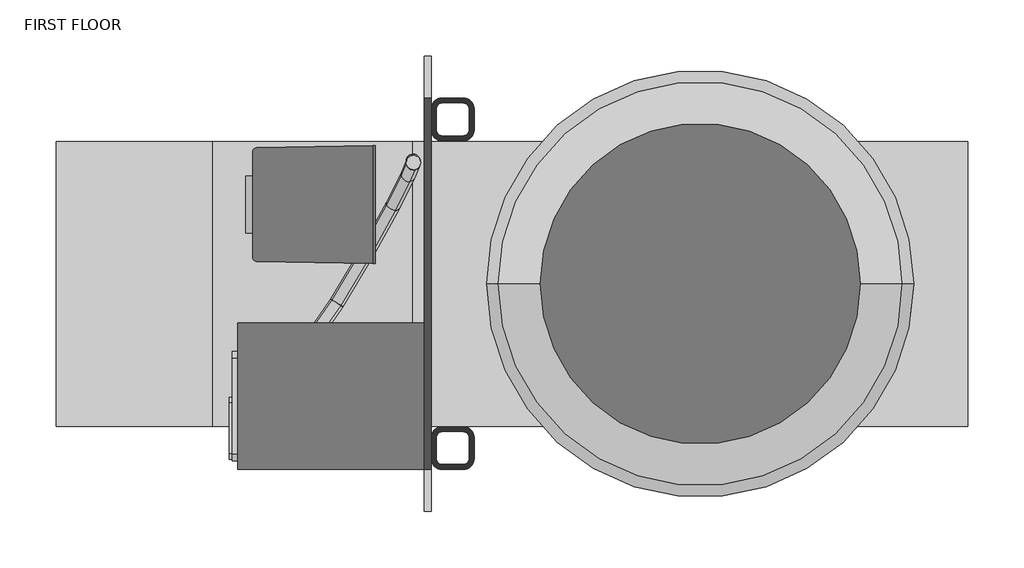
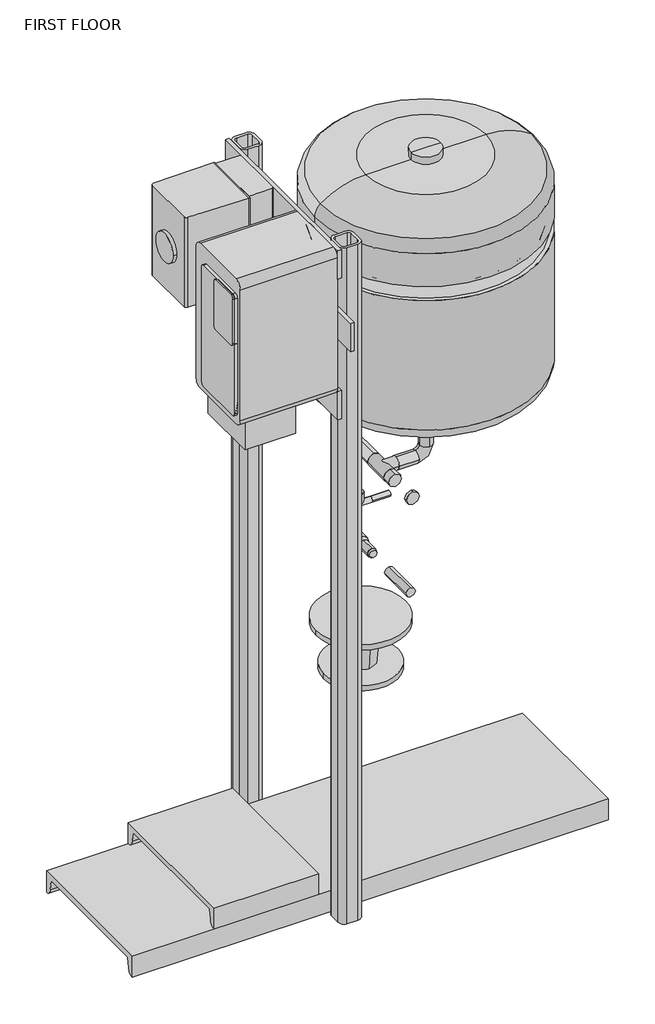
# One storey, incomplete: 13 pipe segments, 9 pipe fittings, 5 beams, 3 proxies, 3 valves, 2 columns.
"""IFC4 building model written with IfcOpenShell, lengths in millimetres."""

from ifc_helpers import new_model, si_unit, point, frame, frame_2d, origin, place, context, project, spatial, circle_curve, ellipse_curve, trimmed, segment, composite_curve, outline, extrude, transform, mapped, element, save
from ifc_brep_helpers import plane_surface, cylinder_surface, advanced_brep
from components import beam_3386be0e, beam_c16335ed, beam_b0f6b6d0, c_channel_c10x20_f8b15b4c, c_channel_c10x20_7602a768, disconnect_disconnect_c236907a, tank_tank_de8b4314, vfd_vfd_badebb43, hss_hollow_structural_section_column_hss1_1_2x1_1_2x3_16_b4625a5d, hss_hollow_structural_section_column_hss1_1_2x1_1_2x3_16_67ca75d1, elbow_generic_standard_738589b0, tee_generic_standard_5078887e, tee_generic_standard_7a603254, transition_generic1_standard_2_0acd84b5, transition_generic1_standard_2_44e35838, transition_generic1_standard_2_162a224e, transition_welded_generic_standard_0458f375, mechanical_equipment_1_mechanical_equipment_1_24614a7e, pipe_accessories_1_pipe_accessories_1_fcb048ba

model = new_model("IFC4")

# Units and contexts
model_context = context("Model", 3, world=origin())
ifc_project = project(units=[si_unit("LENGTHUNIT", "METRE", prefix="MILLI")], contexts=[model_context])

# Site, building, storey
site = spatial("IfcSite", under=ifc_project)
building = spatial("IfcBuilding", under=site)
storey = spatial("IfcBuildingStorey", under=building, Name="FIRST FLOOR", Elevation=0.0)

# Beams
placement = place(None, origin())
beam_shape = beam_3386be0e(model_context)
element("IfcBeam", 1, ObjectType="Structural Stiffeners 2 : Structural Stiffeners 1", at=placement, inside=storey, context=model_context, shape_type="MappedRepresentation", body=[
    mapped(beam_shape, transform((0.0, 0.0, 0.0), x_axis=(1.0, 0.0, 0.0), y_axis=(0.0, 1.0, 0.0), z_axis=(0.0, 0.0, 1.0))),
])
beam_2_shape = beam_c16335ed(model_context)
element("IfcBeam", 2, ObjectType="Structural Stiffeners 3 : Structural Stiffeners 3", at=placement, inside=storey, context=model_context, shape_type="MappedRepresentation", body=[
    mapped(beam_2_shape, transform((0.0, 0.0, 0.0), x_axis=(1.0, 0.0, 0.0), y_axis=(0.0, 1.0, 0.0), z_axis=(0.0, 0.0, 1.0))),
])
beam_3_shape = beam_b0f6b6d0(model_context)
element("IfcBeam", 3, ObjectType="Structural Stiffeners 4 : Structural Stiffeners 4", at=placement, inside=storey, context=model_context, shape_type="MappedRepresentation", body=[
    mapped(beam_3_shape, transform((0.0, 0.0, 0.0), x_axis=(1.0, 0.0, 0.0), y_axis=(0.0, 1.0, 0.0), z_axis=(0.0, 0.0, 1.0))),
])
c_channel_c10x20_shape = c_channel_c10x20_f8b15b4c(model_context)
element("IfcBeam", 4, ObjectType="C-Channel : C10X20", at=placement, inside=storey, context=model_context, shape_type="MappedRepresentation", body=[
    mapped(c_channel_c10x20_shape, transform((2213.0310789, 2040.2688308, 22.8203125), x_axis=(1.0, 0.0, 0.0), y_axis=(0.0, 0.0, 1.0), z_axis=(0.0, -1.0, 0.0))),
])
c_channel_c10x20_2_shape = c_channel_c10x20_7602a768(model_context)
element("IfcBeam", 5, ObjectType="C-Channel : C10X20", at=placement, inside=storey, context=model_context, shape_type="MappedRepresentation", body=[
    mapped(c_channel_c10x20_2_shape, transform((2140.8760292, 2040.2688308, 60.9203125), x_axis=(1.0, 0.0, 0.0), y_axis=(0.0, 0.0, 1.0), z_axis=(0.0, -1.0, 0.0))),
])

# Proxies
disconnect_disconnect_shape = disconnect_disconnect_c236907a(model_context)
element("IfcBuildingElementProxy", 6, Name="Disconnect : Disconnect", ObjectType="Disconnect : Disconnect", at=placement, inside=storey, context=model_context, shape_type="MappedRepresentation", body=[
    mapped(disconnect_disconnect_shape, transform((2234.0305289, 2110.8435936, 1057.148), x_axis=(0.0, 1.0, 0.0), y_axis=(-1.0, 0.0, 0.0), z_axis=(0.0, 0.0, 1.0))),
])
tank_tank_shape = tank_tank_de8b4314(model_context)
element("IfcBuildingElementProxy", 7, Name="Tank : Tank", ObjectType="Tank : Tank", at=placement, inside=storey, context=model_context, shape_type="MappedRepresentation", body=[
    mapped(tank_tank_shape, transform((2480.0930289, 2040.2688308, 749.3), x_axis=(1.0, 0.0, 0.0), y_axis=(0.0, 1.0, 0.0), z_axis=(0.0, 0.0, 1.0))),
])
vfd_vfd_shape = vfd_vfd_badebb43(model_context)
element("IfcBuildingElementProxy", 8, Name="VFD : VFD", ObjectType="VFD : VFD", at=placement, inside=storey, context=model_context, shape_type="MappedRepresentation", body=[
    mapped(vfd_vfd_shape, transform((2067.8146214, 1935.4938308, 906.7002223), x_axis=(0.0, -1.0, 0.0), y_axis=(1.0, 0.0, 0.0), z_axis=(0.0, 0.0, 1.0))),
])

# Columns
hss_hollow_structural_section_column_hss1_1_2x1_1_2x3_16_shape = hss_hollow_structural_section_column_hss1_1_2x1_1_2x3_16_b4625a5d(model_context)
element("IfcColumn", 9, ObjectType="HSS-Hollow Structural Section-Column : HSS1-1/2X1-1/2X3/16 - Obsolete", at=placement, inside=storey, context=model_context, shape_type="MappedRepresentation", body=[
    mapped(hss_hollow_structural_section_column_hss1_1_2x1_1_2x3_16_shape, transform((2259.4305289, 1893.655878, 0.0), x_axis=(1.0, 0.0, 0.0), y_axis=(0.0, 1.0, 0.0), z_axis=(0.0, 0.0, 1.0))),
])
hss_hollow_structural_section_column_hss1_1_2x1_1_2x3_16_2_shape = hss_hollow_structural_section_column_hss1_1_2x1_1_2x3_16_67ca75d1(model_context)
element("IfcColumn", 10, ObjectType="HSS-Hollow Structural Section-Column : HSS1-1/2X1-1/2X3/16 - Obsolete", at=placement, inside=storey, context=model_context, shape_type="MappedRepresentation", body=[
    mapped(hss_hollow_structural_section_column_hss1_1_2x1_1_2x3_16_2_shape, transform((2259.4305289, 2186.8817836, 0.0), x_axis=(1.0, 0.0, 0.0), y_axis=(0.0, 1.0, 0.0), z_axis=(0.0, 0.0, 1.0))),
])

# Pipe fittings
elbow_generic_standard_shape = elbow_generic_standard_738589b0(model_context)
element("IfcPipeFitting", 11, ObjectType="Elbow - Generic : Standard", at=placement, inside=storey, context=model_context, shape_type="MappedRepresentation", body=[
    mapped(elbow_generic_standard_shape, transform((2480.0930289, 2040.2688308, 668.3375), x_axis=(0.0, 0.0, -1.0), y_axis=(-1.0, 0.0, 0.0), z_axis=(0.0, 1.0, 0.0))),
])
element("IfcPipeFitting", 12, ObjectType="Elbow - Generic : Standard", at=placement, inside=storey, context=model_context, shape_type="MappedRepresentation", body=[
    mapped(elbow_generic_standard_shape, transform((2405.2653765, 2159.3313308, 668.3375), x_axis=(0.0, 1.0, 0.0), y_axis=(0.0, 0.0, -1.0), z_axis=(-1.0, 0.0, 0.0))),
])
element("IfcPipeFitting", 13, ObjectType="Elbow - Generic : Standard", at=placement, inside=storey, context=model_context, shape_type="MappedRepresentation", body=[
    mapped(elbow_generic_standard_shape, transform((2405.2653765, 2159.3313308, 496.57), x_axis=(0.0, 0.0, -1.0), y_axis=(0.0, -1.0, 0.0), z_axis=(-1.0, 0.0, 0.0))),
])
tee_generic_standard_shape = tee_generic_standard_5078887e(model_context)
element("IfcPipeFitting", 14, ObjectType="Tee - Generic : Standard", at=placement, inside=storey, context=model_context, shape_type="MappedRepresentation", body=[
    mapped(tee_generic_standard_shape, transform((2405.2653765, 2040.2688308, 668.3375), x_axis=(0.0, -1.0, 0.0), y_axis=(-1.0, 0.0, 0.0), z_axis=(0.0, 0.0, -1.0))),
])
tee_generic_standard_2_shape = tee_generic_standard_7a603254(model_context)
element("IfcPipeFitting", 15, ObjectType="Tee - Generic : Standard", at=placement, inside=storey, context=model_context, shape_type="MappedRepresentation", body=[
    mapped(tee_generic_standard_2_shape, transform((2333.0341265, 1977.5625808, 668.3375), x_axis=(-1.0, 0.0, 0.0), y_axis=(0.0, 0.0, -1.0), z_axis=(0.0, -1.0, 0.0))),
])
transition_generic1_standard_2_shape = transition_generic1_standard_2_0acd84b5(model_context)
element("IfcPipeFitting", 16, ObjectType="Transition - Generic1 : Standard 2", at=placement, inside=storey, context=model_context, shape_type="MappedRepresentation", body=[
    mapped(transition_generic1_standard_2_shape, transform((2480.0930289, 2040.2688308, 760.197863), x_axis=(0.0, 0.0, 1.0), y_axis=(-1.0, 0.0, 0.0), z_axis=(0.0, -1.0, 0.0))),
])
transition_generic1_standard_2_2_shape = transition_generic1_standard_2_44e35838(model_context)
element("IfcPipeFitting", 17, ObjectType="Transition - Generic1 : Standard 2", at=placement, inside=storey, context=model_context, shape_type="MappedRepresentation", body=[
    mapped(transition_generic1_standard_2_2_shape, transform((2405.2653765, 2099.8000808, 496.57), x_axis=(0.0, -1.0, 0.0), y_axis=(1.0, 0.0, 0.0), z_axis=(0.0, 0.0, 1.0))),
])
transition_generic1_standard_2_3_shape = transition_generic1_standard_2_162a224e(model_context)
element("IfcPipeFitting", 18, ObjectType="Transition - Generic1 : Standard 2", at=placement, inside=storey, context=model_context, shape_type="MappedRepresentation", body=[
    mapped(transition_generic1_standard_2_3_shape, transform((2405.2653765, 2069.6249791, 496.57), x_axis=(0.0, -1.0, 0.0), y_axis=(1.0, 0.0, 0.0), z_axis=(0.0, 0.0, 1.0))),
])
transition_welded_generic_standard_shape = transition_welded_generic_standard_0458f375(model_context)
element("IfcPipeFitting", 19, ObjectType="Transition - Welded - Generic : Standard", at=placement, inside=storey, context=model_context, shape_type="MappedRepresentation", body=[
    mapped(transition_welded_generic_standard_shape, transform((2368.9680289, 2040.2688308, 330.0266676), x_axis=(0.0, 0.0, 1.0), y_axis=(0.0, -1.0, 0.0), z_axis=(1.0, 0.0, 0.0))),
])

# Pipe segments
element("IfcPipeSegment", 20, ObjectType="Flex - Round", at=placement, inside=storey, context=model_context, shape_type="AdvancedBrep", body=[
    advanced_brep(
    [(2218.2373794, 2147.4712083, 1070.589219), (2225.564909, 2142.2820118, 1070.4325321), (2230.7563366, 2149.6079608, 1070.589219), (2223.4288071, 2154.7971572, 1070.745906), (2218.0607979, 2148.5057765, 1028.0682254), (2223.2513909, 2155.8366155, 1028.0239325), (2230.5796402, 2150.6432023, 1028.0405559), (2225.3890472, 2143.3123633, 1028.0848488)],
    [
        (0, 1, circle_curve(frame((2224.496858, 2148.5395845, 1070.589219), z_axis=(0.004151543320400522, -0.024323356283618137, 0.9996955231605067), x_axis=(-0.9857446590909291, -0.16824823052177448, 0.0)), 6.35)),
        (1, 2, circle_curve(frame((2224.496858, 2148.5395845, 1070.589219), z_axis=(0.004151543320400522, -0.024323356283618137, 0.9996955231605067), x_axis=(-0.9857446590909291, -0.16824823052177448, 0.0)), 6.35)),
        (2, 3, circle_curve(frame((2224.496858, 2148.5395845, 1070.589219), z_axis=(0.004151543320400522, -0.024323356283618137, 0.9996955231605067), x_axis=(-0.9857446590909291, -0.16824823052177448, 0.0)), 6.35)),
        (3, 0, circle_curve(frame((2224.496858, 2148.5395845, 1070.589219), z_axis=(0.004151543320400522, -0.024323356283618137, 0.9996955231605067), x_axis=(-0.9857446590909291, -0.16824823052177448, 0.0)), 6.35)),
        (4, 5, ellipse_curve(frame((2224.3202191, 2149.5744894, 1028.0543907), z_axis=(-0.0013407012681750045, -0.005092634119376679, -0.9999861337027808), x_axis=(0.09514721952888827, -0.995450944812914, 0.004941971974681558)), 6.3527739, 6.35)),
        (5, 6, ellipse_curve(frame((2224.3202191, 2149.5744894, 1028.0543907), z_axis=(-0.0013407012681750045, -0.005092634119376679, -0.9999861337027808), x_axis=(0.09514721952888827, -0.995450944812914, 0.004941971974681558)), 6.3527739, 6.35)),
        (6, 7, ellipse_curve(frame((2224.3202191, 2149.5744894, 1028.0543907), z_axis=(-0.0013407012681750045, -0.005092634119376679, -0.9999861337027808), x_axis=(0.09514721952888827, -0.995450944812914, 0.004941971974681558)), 6.3527739, 6.35)),
        (7, 4, ellipse_curve(frame((2224.3202191, 2149.5744894, 1028.0543907), z_axis=(-0.0013407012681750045, -0.005092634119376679, -0.9999861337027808), x_axis=(0.09514721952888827, -0.995450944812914, 0.004941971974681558)), 6.3527739, 6.35)),
        (0, 4),
        (7, 1),
        (6, 2),
        (5, 3),
    ],
    [
        plane_surface(frame((2224.496858, 2154.8877058, 1070.7436737), z_axis=(0.004151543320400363, -0.02432335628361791, 0.9996955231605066), x_axis=(0.9999913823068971, 0.00010098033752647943, -0.004150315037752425))),
        plane_surface(frame((2230.6414047, 2150.1786238, 1028.0428391), z_axis=(-0.0013407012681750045, -0.005092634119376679, -0.9999861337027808), x_axis=(0.09514721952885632, -0.995450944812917, 0.0049419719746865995))),
        cylinder_surface(frame((2224.496858, 2148.5395845, 1070.589219), z_axis=(0.004151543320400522, -0.024323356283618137, 0.9996955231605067), x_axis=(-0.9857446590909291, -0.16824823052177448, 0.0)), 6.35),
    ],
    [
        (0, [[1, 2, 3, 4]]),
        (1, [[5, 6, 7, 8]]),
        (2, [[-1, 9, -8, 10]]),
        (2, [[-2, -10, -7, 11]]),
        (2, [[-3, -11, -6, 12]]),
        (2, [[-4, -12, -5, -9]]),
    ],
),
    advanced_brep(
    [(2218.0607979, 2148.5057765, 1028.0682254), (2225.3890472, 2143.3123633, 1028.0848488), (2230.5796402, 2150.6432023, 1028.0405559), (2223.2513909, 2155.8366155, 1028.0239325), (2218.1232551, 2147.0410751, 985.6435743), (2225.4509541, 2141.8605664, 986.0339729), (2230.6435304, 2149.1448938, 984.6424862), (2223.3158314, 2154.3254025, 984.2520876)],
    [
        (0, 1, ellipse_curve(frame((2224.3202191, 2149.5744894, 1028.0543907), z_axis=(0.0013407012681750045, 0.005092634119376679, 0.9999861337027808), x_axis=(-0.09514721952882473, 0.9954509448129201, -0.004941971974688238)), 6.3527739, 6.35)),
        (1, 2, ellipse_curve(frame((2224.3202191, 2149.5744894, 1028.0543907), z_axis=(0.0013407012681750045, 0.005092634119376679, 0.9999861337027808), x_axis=(-0.09514721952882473, 0.9954509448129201, -0.004941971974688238)), 6.3527739, 6.35)),
        (2, 3, ellipse_curve(frame((2224.3202191, 2149.5744894, 1028.0543907), z_axis=(0.0013407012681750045, 0.005092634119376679, 0.9999861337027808), x_axis=(-0.09514721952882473, 0.9954509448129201, -0.004941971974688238)), 6.3527739, 6.35)),
        (3, 0, ellipse_curve(frame((2224.3202191, 2149.5744894, 1028.0543907), z_axis=(0.0013407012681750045, 0.005092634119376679, 0.9999861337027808), x_axis=(-0.09514721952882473, 0.9954509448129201, -0.004941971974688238)), 6.3527739, 6.35)),
        (0, 4),
        (4, 5, ellipse_curve(frame((2224.3833927, 2148.0929845, 985.1430302), z_axis=(0.05367454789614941, 0.15031433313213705, 0.9871801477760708), x_axis=(-0.4254088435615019, -0.8909612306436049, 0.15879358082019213)), 6.4031541, 6.35)),
        (5, 1),
        (5, 6, ellipse_curve(frame((2224.3833927, 2148.0929845, 985.1430302), z_axis=(0.05367454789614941, 0.15031433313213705, 0.9871801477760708), x_axis=(-0.4254088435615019, -0.8909612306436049, 0.15879358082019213)), 6.4031541, 6.35)),
        (6, 2),
        (6, 7, ellipse_curve(frame((2224.3833927, 2148.0929845, 985.1430302), z_axis=(0.05367454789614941, 0.15031433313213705, 0.9871801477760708), x_axis=(-0.4254088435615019, -0.8909612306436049, 0.15879358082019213)), 6.4031541, 6.35)),
        (7, 3),
        (7, 4, ellipse_curve(frame((2224.3833927, 2148.0929845, 985.1430302), z_axis=(0.05367454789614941, 0.15031433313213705, 0.9871801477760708), x_axis=(-0.4254088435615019, -0.8909612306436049, 0.15879358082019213)), 6.4031541, 6.35)),
    ],
    [
        plane_surface(frame((2230.6414047, 2150.1786238, 1028.0428391), z_axis=(0.0013407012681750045, 0.005092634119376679, 0.9999861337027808), x_axis=(0.09514721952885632, -0.995450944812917, 0.0049419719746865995))),
        cylinder_surface(frame((2224.3202191, 2149.5744894, 1028.0543907), z_axis=(-0.0014713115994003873, 0.034504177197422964, 0.9994034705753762), x_axis=(-0.9857388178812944, -0.16822604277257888, 0.0043567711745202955)), 6.35),
        plane_surface(frame((2230.1200347, 2145.372147, 985.245412), z_axis=(-0.05367454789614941, -0.15031433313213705, -0.9871801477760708), x_axis=(-0.425408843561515, -0.8909612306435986, 0.15879358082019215))),
    ],
    [
        (0, [[1, 2, 3, 4]]),
        (1, [[-1, 5, 6, 7]]),
        (1, [[-2, -7, 8, 9]]),
        (1, [[-3, -9, 10, 11]]),
        (1, [[-4, -11, 12, -5]]),
        (2, [[-12, -10, -8, -6]]),
    ],
),
    advanced_brep(
    [(2218.1232551, 2147.0410751, 985.6435743), (2225.4509541, 2141.8605664, 986.0339729), (2230.6435304, 2149.1448938, 984.6424862), (2223.3158314, 2154.3254025, 984.2520876), (2213.8221611, 2136.5351893, 947.4436744), (2218.6643001, 2142.9635357, 942.9398004), (2226.0383693, 2137.8962913, 943.7420334), (2221.1962303, 2131.4679448, 948.2459074)],
    [
        (0, 1, ellipse_curve(frame((2224.3833927, 2148.0929845, 985.1430302), z_axis=(0.05367454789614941, 0.15031433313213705, 0.9871801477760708), x_axis=(0.42540884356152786, 0.8909612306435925, -0.15879358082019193)), 6.4031541, 6.35)),
        (1, 2, ellipse_curve(frame((2224.3833927, 2148.0929845, 985.1430302), z_axis=(0.05367454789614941, 0.15031433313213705, 0.9871801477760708), x_axis=(0.42540884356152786, 0.8909612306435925, -0.15879358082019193)), 6.4031541, 6.35)),
        (2, 3, ellipse_curve(frame((2224.3833927, 2148.0929845, 985.1430302), z_axis=(0.05367454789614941, 0.15031433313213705, 0.9871801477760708), x_axis=(0.42540884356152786, 0.8909612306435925, -0.15879358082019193)), 6.4031541, 6.35)),
        (3, 0, ellipse_curve(frame((2224.3833927, 2148.0929845, 985.1430302), z_axis=(0.05367454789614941, 0.15031433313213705, 0.9871801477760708), x_axis=(0.42540884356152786, 0.8909612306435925, -0.15879358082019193)), 6.4031541, 6.35)),
        (4, 5, ellipse_curve(frame((2219.9302652, 2137.2157403, 945.5928539), z_axis=(-0.21322910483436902, -0.44777489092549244, -0.8683495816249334), x_axis=(-0.4351267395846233, -0.7522510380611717, 0.4947555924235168)), 6.5233147, 6.35)),
        (5, 6, ellipse_curve(frame((2219.9302652, 2137.2157403, 945.5928539), z_axis=(-0.21322910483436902, -0.44777489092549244, -0.8683495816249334), x_axis=(-0.4351267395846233, -0.7522510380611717, 0.4947555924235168)), 6.5233147, 6.35)),
        (6, 7, ellipse_curve(frame((2219.9302652, 2137.2157403, 945.5928539), z_axis=(-0.21322910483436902, -0.44777489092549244, -0.8683495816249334), x_axis=(-0.4351267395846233, -0.7522510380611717, 0.4947555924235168)), 6.5233147, 6.35)),
        (7, 4, ellipse_curve(frame((2219.9302652, 2137.2157403, 945.5928539), z_axis=(-0.21322910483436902, -0.44777489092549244, -0.8683495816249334), x_axis=(-0.4351267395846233, -0.7522510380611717, 0.4947555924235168)), 6.5233147, 6.35)),
        (0, 4),
        (7, 1),
        (6, 2),
        (5, 3),
    ],
    [
        plane_surface(frame((2230.1200347, 2145.372147, 985.245412), z_axis=(0.05367454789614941, 0.15031433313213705, 0.9871801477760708), x_axis=(-0.425408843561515, -0.8909612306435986, 0.15879358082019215))),
        plane_surface(frame((2225.4849659, 2134.1465413, 945.8115289), z_axis=(-0.21322910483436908, -0.44777489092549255, -0.8683495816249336), x_axis=(-0.43512673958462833, -0.7522510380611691, 0.49475559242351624))),
        cylinder_surface(frame((2224.3833927, 2148.0929845, 985.1430302), z_axis=(0.10792927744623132, 0.2636289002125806, 0.9585671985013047), x_axis=(-0.9778062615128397, -0.14601110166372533, 0.1502520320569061)), 6.35),
    ],
    [
        (0, [[1, 2, 3, 4]]),
        (1, [[5, 6, 7, 8]]),
        (2, [[-1, 9, -8, 10]]),
        (2, [[-2, -10, -7, 11]]),
        (2, [[-3, -11, -6, 12]]),
        (2, [[-4, -12, -5, -9]]),
    ],
),
    advanced_brep(
    [(2213.8221611, 2136.5351893, 947.4436744), (2221.1962303, 2131.4679448, 948.2459074), (2226.0383693, 2137.8962913, 943.7420334), (2218.6643001, 2142.9635357, 942.9398004), (2200.7417171, 2110.6412632, 916.2756906), (2204.3905523, 2114.7073564, 908.9284212), (2211.8756963, 2109.8599946, 909.9953223), (2208.2268612, 2105.7939014, 917.3425917)],
    [
        (0, 1, ellipse_curve(frame((2219.9302652, 2137.2157403, 945.5928539), z_axis=(0.21322910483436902, 0.44777489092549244, 0.8683495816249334), x_axis=(0.4351267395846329, 0.7522510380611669, -0.4947555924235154)), 6.5233147, 6.35)),
        (1, 2, ellipse_curve(frame((2219.9302652, 2137.2157403, 945.5928539), z_axis=(0.21322910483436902, 0.44777489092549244, 0.8683495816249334), x_axis=(0.4351267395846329, 0.7522510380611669, -0.4947555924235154)), 6.5233147, 6.35)),
        (2, 3, ellipse_curve(frame((2219.9302652, 2137.2157403, 945.5928539), z_axis=(0.21322910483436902, 0.44777489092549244, 0.8683495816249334), x_axis=(0.4351267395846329, 0.7522510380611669, -0.4947555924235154)), 6.5233147, 6.35)),
        (3, 0, ellipse_curve(frame((2219.9302652, 2137.2157403, 945.5928539), z_axis=(0.21322910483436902, 0.44777489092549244, 0.8683495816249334), x_axis=(0.4351267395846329, 0.7522510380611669, -0.4947555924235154)), 6.5233147, 6.35)),
        (4, 5, ellipse_curve(frame((2206.3087067, 2110.2506289, 913.1355065), z_axis=(-0.3803549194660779, -0.7161376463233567, -0.5852153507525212), x_axis=(-0.3368267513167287, -0.48205080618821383, 0.8088107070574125)), 6.4748381, 6.35)),
        (5, 6, ellipse_curve(frame((2206.3087067, 2110.2506289, 913.1355065), z_axis=(-0.3803549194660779, -0.7161376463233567, -0.5852153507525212), x_axis=(-0.3368267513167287, -0.48205080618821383, 0.8088107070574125)), 6.4748381, 6.35)),
        (6, 7, ellipse_curve(frame((2206.3087067, 2110.2506289, 913.1355065), z_axis=(-0.3803549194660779, -0.7161376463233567, -0.5852153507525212), x_axis=(-0.3368267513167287, -0.48205080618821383, 0.8088107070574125)), 6.4748381, 6.35)),
        (7, 4, ellipse_curve(frame((2206.3087067, 2110.2506289, 913.1355065), z_axis=(-0.3803549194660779, -0.7161376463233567, -0.5852153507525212), x_axis=(-0.3368267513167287, -0.48205080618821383, 0.8088107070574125)), 6.4748381, 6.35)),
        (0, 4),
        (7, 1),
        (6, 2),
        (5, 3),
    ],
    [
        plane_surface(frame((2225.4849659, 2134.1465413, 945.8115289), z_axis=(0.21322910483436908, 0.44777489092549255, 0.8683495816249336), x_axis=(-0.43512673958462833, -0.7522510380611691, 0.49475559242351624))),
        plane_surface(frame((2211.7781099, 2107.045458, 913.5029424), z_axis=(-0.380354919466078, -0.7161376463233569, -0.5852153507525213), x_axis=(-0.3368267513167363, -0.4820508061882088, 0.8088107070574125))),
        cylinder_surface(frame((2219.9302652, 2137.2157403, 945.5928539), z_axis=(0.3071985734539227, 0.608127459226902, 0.7319904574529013), x_axis=(-0.9166497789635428, -0.017584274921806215, 0.3993043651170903)), 6.35),
    ],
    [
        (0, [[1, 2, 3, 4]]),
        (1, [[5, 6, 7, 8]]),
        (2, [[-1, 9, -8, 10]]),
        (2, [[-2, -10, -7, 11]]),
        (2, [[-3, -11, -6, 12]]),
        (2, [[-4, -12, -5, -9]]),
    ],
),
    advanced_brep(
    [(2200.7417171, 2110.6412632, 916.2756906), (2208.2268612, 2105.7939014, 917.3425917), (2211.8756963, 2109.8599946, 909.9953223), (2204.3905523, 2114.7073564, 908.9284212), (2178.280459, 2069.8725306, 894.9901328), (2180.5968089, 2071.5200711, 886.380125), (2188.1458418, 2066.7886721, 887.5075709), (2185.8294919, 2065.1411315, 896.1175786)],
    [
        (0, 1, ellipse_curve(frame((2206.3087067, 2110.2506289, 913.1355065), z_axis=(0.3803549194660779, 0.7161376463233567, 0.5852153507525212), x_axis=(0.3368267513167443, 0.48205080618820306, -0.8088107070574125)), 6.4748381, 6.35)),
        (1, 2, ellipse_curve(frame((2206.3087067, 2110.2506289, 913.1355065), z_axis=(0.3803549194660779, 0.7161376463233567, 0.5852153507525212), x_axis=(0.3368267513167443, 0.48205080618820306, -0.8088107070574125)), 6.4748381, 6.35)),
        (2, 3, ellipse_curve(frame((2206.3087067, 2110.2506289, 913.1355065), z_axis=(0.3803549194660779, 0.7161376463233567, 0.5852153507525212), x_axis=(0.3368267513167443, 0.48205080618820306, -0.8088107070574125)), 6.4748381, 6.35)),
        (3, 0, ellipse_curve(frame((2206.3087067, 2110.2506289, 913.1355065), z_axis=(0.3803549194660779, 0.7161376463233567, 0.5852153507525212), x_axis=(0.3368267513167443, 0.48205080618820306, -0.8088107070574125)), 6.4748381, 6.35)),
        (4, 5, ellipse_curve(frame((2183.2131504, 2068.3306013, 891.2488518), z_axis=(-0.47749382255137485, -0.8303212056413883, -0.28734360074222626), x_axis=(-0.24680076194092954, -0.18711891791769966, 0.9508290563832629)), 6.4114066, 6.35)),
        (5, 6, ellipse_curve(frame((2183.2131504, 2068.3306013, 891.2488518), z_axis=(-0.47749382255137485, -0.8303212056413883, -0.28734360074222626), x_axis=(-0.24680076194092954, -0.18711891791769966, 0.9508290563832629)), 6.4114066, 6.35)),
        (6, 7, ellipse_curve(frame((2183.2131504, 2068.3306013, 891.2488518), z_axis=(-0.47749382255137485, -0.8303212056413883, -0.28734360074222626), x_axis=(-0.24680076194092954, -0.18711891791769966, 0.9508290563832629)), 6.4114066, 6.35)),
        (7, 4, ellipse_curve(frame((2183.2131504, 2068.3306013, 891.2488518), z_axis=(-0.47749382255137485, -0.8303212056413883, -0.28734360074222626), x_axis=(-0.24680076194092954, -0.18711891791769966, 0.9508290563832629)), 6.4114066, 6.35)),
        (0, 4),
        (7, 1),
        (6, 2),
        (5, 3),
    ],
    [
        plane_surface(frame((2211.7781099, 2107.045458, 913.5029424), z_axis=(0.380354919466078, 0.7161376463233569, 0.5852153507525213), x_axis=(-0.3368267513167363, -0.4820508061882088, 0.8088107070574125))),
        plane_surface(frame((2188.5678575, 2064.9972856, 891.982758), z_axis=(-0.47749382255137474, -0.8303212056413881, -0.2873436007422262), x_axis=(-0.2468007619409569, -0.18711891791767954, 0.9508290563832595))),
        cylinder_surface(frame((2206.3087067, 2110.2506289, 913.1355065), z_axis=(0.4388444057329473, 0.7965328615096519, 0.41587376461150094), x_axis=(-0.8196090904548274, 0.16512531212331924, 0.5486114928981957)), 6.35),
    ],
    [
        (0, [[1, 2, 3, 4]]),
        (1, [[5, 6, 7, 8]]),
        (2, [[-1, 9, -8, 10]]),
        (2, [[-2, -10, -7, 11]]),
        (2, [[-3, -11, -6, 12]]),
        (2, [[-4, -12, -5, -9]]),
    ],
),
    advanced_brep(
    [(2178.280459, 2069.8725306, 894.9901328), (2185.8294919, 2065.1411315, 896.1175786), (2188.1458418, 2066.7886721, 887.5075709), (2180.5968089, 2071.5200711, 886.380125), (2151.9799453, 2025.8718225, 887.0371966), (2152.8488494, 2025.097789, 877.9894998), (2160.353917, 2020.292836, 879.1036511), (2159.4850129, 2021.0668694, 888.1513479)],
    [
        (0, 1, ellipse_curve(frame((2183.2131504, 2068.3306013, 891.2488518), z_axis=(0.47749382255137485, 0.8303212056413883, 0.28734360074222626), x_axis=(0.24680076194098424, 0.18711891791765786, -0.9508290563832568)), 6.4114066, 6.35)),
        (1, 2, ellipse_curve(frame((2183.2131504, 2068.3306013, 891.2488518), z_axis=(0.47749382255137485, 0.8303212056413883, 0.28734360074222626), x_axis=(0.24680076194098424, 0.18711891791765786, -0.9508290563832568)), 6.4114066, 6.35)),
        (2, 3, ellipse_curve(frame((2183.2131504, 2068.3306013, 891.2488518), z_axis=(0.47749382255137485, 0.8303212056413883, 0.28734360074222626), x_axis=(0.24680076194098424, 0.18711891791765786, -0.9508290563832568)), 6.4114066, 6.35)),
        (3, 0, ellipse_curve(frame((2183.2131504, 2068.3306013, 891.2488518), z_axis=(0.47749382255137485, 0.8303212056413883, 0.28734360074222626), x_axis=(0.24680076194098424, 0.18711891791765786, -0.9508290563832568)), 6.4114066, 6.35)),
        (4, 5, ellipse_curve(frame((2156.1669311, 2023.0823292, 883.0704239), z_axis=(-0.5411811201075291, -0.8406694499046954, 0.019946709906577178), x_axis=(-0.1461414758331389, 0.11738520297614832, 0.9822745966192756)), 6.4507707, 6.35)),
        (5, 6, ellipse_curve(frame((2156.1669311, 2023.0823292, 883.0704239), z_axis=(-0.5411811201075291, -0.8406694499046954, 0.019946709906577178), x_axis=(-0.1461414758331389, 0.11738520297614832, 0.9822745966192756)), 6.4507707, 6.35)),
        (6, 7, ellipse_curve(frame((2156.1669311, 2023.0823292, 883.0704239), z_axis=(-0.5411811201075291, -0.8406694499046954, 0.019946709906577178), x_axis=(-0.1461414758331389, 0.11738520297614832, 0.9822745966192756)), 6.4507707, 6.35)),
        (7, 4, ellipse_curve(frame((2156.1669311, 2023.0823292, 883.0704239), z_axis=(-0.5411811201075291, -0.8406694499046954, 0.019946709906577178), x_axis=(-0.1461414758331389, 0.11738520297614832, 0.9822745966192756)), 6.4507707, 6.35)),
        (0, 4),
        (7, 1),
        (6, 2),
        (5, 3),
    ],
    [
        plane_surface(frame((2188.5678575, 2064.9972856, 891.982758), z_axis=(0.47749382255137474, 0.8303212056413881, 0.2873436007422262), x_axis=(-0.2468007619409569, -0.18711891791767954, 0.9508290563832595))),
        plane_surface(frame((2161.4254277, 2019.725253, 884.253958), z_axis=(-0.5411811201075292, -0.8406694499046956, 0.01994670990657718), x_axis=(-0.14614147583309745, 0.11738520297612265, 0.982274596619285))),
        cylinder_surface(frame((2183.2131504, 2068.3306013, 891.2488518), z_axis=(0.5069966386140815, 0.8482043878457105, 0.1533092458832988), x_axis=(-0.7273465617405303, 0.32556201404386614, 0.6041327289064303)), 6.35),
    ],
    [
        (0, [[1, 2, 3, 4]]),
        (1, [[5, 6, 7, 8]]),
        (2, [[-1, 9, -8, 10]]),
        (2, [[-2, -10, -7, 11]]),
        (2, [[-3, -11, -6, 12]]),
        (2, [[-4, -12, -5, -9]]),
    ],
),
    advanced_brep(
    [(2151.9799453, 2025.8718225, 887.0371966), (2159.4850129, 2021.0668694, 888.1513479), (2160.353917, 2020.292836, 879.1036511), (2152.8488494, 2025.097789, 877.9894998), (2128.4294746, 1991.845676, 895.1583826), (2126.522055, 1987.0603599, 887.0680783), (2133.7742481, 1981.8900492, 888.2694313), (2135.6816676, 1986.6753653, 896.3597356)],
    [
        (0, 1, ellipse_curve(frame((2156.1669311, 2023.0823292, 883.0704239), z_axis=(0.5411811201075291, 0.8406694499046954, -0.019946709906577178), x_axis=(0.14614147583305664, -0.11738520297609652, -0.9822745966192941)), 6.4507707, 6.35)),
        (1, 2, ellipse_curve(frame((2156.1669311, 2023.0823292, 883.0704239), z_axis=(0.5411811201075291, 0.8406694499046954, -0.019946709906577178), x_axis=(0.14614147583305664, -0.11738520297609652, -0.9822745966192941)), 6.4507707, 6.35)),
        (2, 3, ellipse_curve(frame((2156.1669311, 2023.0823292, 883.0704239), z_axis=(0.5411811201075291, 0.8406694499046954, -0.019946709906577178), x_axis=(0.14614147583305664, -0.11738520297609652, -0.9822745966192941)), 6.4507707, 6.35)),
        (3, 0, ellipse_curve(frame((2156.1669311, 2023.0823292, 883.0704239), z_axis=(0.5411811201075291, 0.8406694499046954, -0.019946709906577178), x_axis=(0.14614147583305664, -0.11738520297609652, -0.9822745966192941)), 6.4507707, 6.35)),
        (4, 5, ellipse_curve(frame((2131.1018613, 1986.8678626, 891.713907), z_axis=(-0.5520190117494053, -0.6541512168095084, 0.5170698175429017), x_axis=(0.11887924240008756, 0.5520363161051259, 0.8253021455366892)), 6.7865746, 6.35)),
        (5, 6, ellipse_curve(frame((2131.1018613, 1986.8678626, 891.713907), z_axis=(-0.5520190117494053, -0.6541512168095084, 0.5170698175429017), x_axis=(0.11887924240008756, 0.5520363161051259, 0.8253021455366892)), 6.7865746, 6.35)),
        (6, 7, ellipse_curve(frame((2131.1018613, 1986.8678626, 891.713907), z_axis=(-0.5520190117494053, -0.6541512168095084, 0.5170698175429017), x_axis=(0.11887924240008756, 0.5520363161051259, 0.8253021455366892)), 6.7865746, 6.35)),
        (7, 4, ellipse_curve(frame((2131.1018613, 1986.8678626, 891.713907), z_axis=(-0.5520190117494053, -0.6541512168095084, 0.5170698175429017), x_axis=(0.11887924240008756, 0.5520363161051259, 0.8253021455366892)), 6.7865746, 6.35)),
        (0, 4),
        (7, 1),
        (6, 2),
        (5, 3),
    ],
    [
        plane_surface(frame((2161.4254277, 2019.725253, 884.253958), z_axis=(0.5411811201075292, 0.8406694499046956, -0.01994670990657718), x_axis=(-0.14614147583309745, 0.11738520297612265, 0.982274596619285))),
        plane_surface(frame((2136.3426035, 1983.5845866, 893.1551635), z_axis=(-0.5520190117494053, -0.6541512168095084, 0.5170698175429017), x_axis=(0.1188792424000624, 0.5520363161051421, 0.8253021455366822))),
        cylinder_surface(frame((2156.1669311, 2023.0823292, 883.0704239), z_axis=(0.5584574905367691, 0.8068694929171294, -0.19257947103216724), x_axis=(-0.5844891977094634, 0.5474762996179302, 0.5988673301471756)), 6.35),
    ],
    [
        (0, [[1, 2, 3, 4]]),
        (1, [[5, 6, 7, 8]]),
        (2, [[-1, 9, -8, 10]]),
        (2, [[-2, -10, -7, 11]]),
        (2, [[-3, -11, -6, 12]]),
        (2, [[-4, -12, -5, -9]]),
    ],
),
    advanced_brep(
    [(2128.4294746, 1991.845676, 895.1583826), (2135.6816676, 1986.6753653, 896.3597356), (2133.7742481, 1981.8900492, 888.2694313), (2126.522055, 1987.0603599, 887.0680783), (2113.0704624, 1978.3407721, 920.2422543), (2108.4721981, 1971.1894445, 916.5465557), (2115.4270997, 1965.7577308, 918.2334359), (2120.025364, 1972.9090584, 921.9291345)],
    [
        (0, 1, ellipse_curve(frame((2131.1018613, 1986.8678626, 891.713907), z_axis=(0.5520190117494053, 0.6541512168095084, -0.5170698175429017), x_axis=(-0.11887924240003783, -0.5520363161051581, -0.8253021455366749)), 6.7865746, 6.35)),
        (1, 2, ellipse_curve(frame((2131.1018613, 1986.8678626, 891.713907), z_axis=(0.5520190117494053, 0.6541512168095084, -0.5170698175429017), x_axis=(-0.11887924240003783, -0.5520363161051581, -0.8253021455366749)), 6.7865746, 6.35)),
        (2, 3, ellipse_curve(frame((2131.1018613, 1986.8678626, 891.713907), z_axis=(0.5520190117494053, 0.6541512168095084, -0.5170698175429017), x_axis=(-0.11887924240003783, -0.5520363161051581, -0.8253021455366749)), 6.7865746, 6.35)),
        (3, 0, ellipse_curve(frame((2131.1018613, 1986.8678626, 891.713907), z_axis=(0.5520190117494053, 0.6541512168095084, -0.5170698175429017), x_axis=(-0.11887924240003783, -0.5520363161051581, -0.8253021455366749)), 6.7865746, 6.35)),
        (4, 5, ellipse_curve(frame((2114.2487811, 1972.0492515, 919.2378451), z_axis=(-0.3858569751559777, -0.21547417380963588, 0.8970425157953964), x_axis=(0.40389381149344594, 0.8347521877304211, 0.3742440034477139)), 6.5581417, 6.35)),
        (5, 6, ellipse_curve(frame((2114.2487811, 1972.0492515, 919.2378451), z_axis=(-0.3858569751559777, -0.21547417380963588, 0.8970425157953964), x_axis=(0.40389381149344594, 0.8347521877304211, 0.3742440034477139)), 6.5581417, 6.35)),
        (6, 7, ellipse_curve(frame((2114.2487811, 1972.0492515, 919.2378451), z_axis=(-0.3858569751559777, -0.21547417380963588, 0.8970425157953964), x_axis=(0.40389381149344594, 0.8347521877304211, 0.3742440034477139)), 6.5581417, 6.35)),
        (7, 4, ellipse_curve(frame((2114.2487811, 1972.0492515, 919.2378451), z_axis=(-0.3858569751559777, -0.21547417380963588, 0.8970425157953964), x_axis=(0.40389381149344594, 0.8347521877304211, 0.3742440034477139)), 6.5581417, 6.35)),
        (0, 4),
        (7, 1),
        (6, 2),
        (5, 3),
    ],
    [
        plane_surface(frame((2136.3426035, 1983.5845866, 893.1551635), z_axis=(0.5520190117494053, 0.6541512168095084, -0.5170698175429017), x_axis=(0.1188792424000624, 0.5520363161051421, 0.8253021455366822))),
        plane_surface(frame((2119.5157766, 1968.8316139, 920.7305159), z_axis=(-0.38585697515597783, -0.21547417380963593, 0.8970425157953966), x_axis=(0.40389381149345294, 0.8347521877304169, 0.3742440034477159))),
        cylinder_surface(frame((2131.1018613, 1986.8678626, 891.713907), z_axis=(0.47455869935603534, 0.4172709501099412, -0.7750348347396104), x_axis=(-0.28179168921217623, 0.9061776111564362, 0.31533407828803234)), 6.35),
    ],
    [
        (0, [[1, 2, 3, 4]]),
        (1, [[5, 6, 7, 8]]),
        (2, [[-1, 9, -8, 10]]),
        (2, [[-2, -10, -7, 11]]),
        (2, [[-3, -11, -6, 12]]),
        (2, [[-4, -12, -5, -9]]),
    ],
),
])
element("IfcPipeSegment", 21, ObjectType="Standard", at=placement, inside=storey, context=model_context, shape_type="SweptSolid", body=[
    extrude(outline(composite_curve([segment(trimmed(circle_curve(frame_2d((2480.0930289, 2040.2688308)), 11.1125), [point((2491.2055289, 2040.2688308))], [point((2480.0930289, 2029.1563308))], False, "CARTESIAN"), True, "CONTINUOUS"), segment(trimmed(circle_curve(frame_2d((2480.0930289, 2040.2688308)), 11.1125), [point((2480.0930289, 2029.1563308))], [point((2468.9805289, 2040.2688308))], False, "CARTESIAN"), True, "CONTINUOUS"), segment(trimmed(circle_curve(frame_2d((2480.0930289, 2040.2688308)), 11.1125), [point((2468.9805289, 2040.2688308))], [point((2480.0930289, 2051.3813308))], False, "CARTESIAN"), True, "CONTINUOUS"), segment(trimmed(circle_curve(frame_2d((2480.0930289, 2040.2688308)), 11.1125), [point((2480.0930289, 2051.3813308))], [point((2491.2055289, 2040.2688308))], False, "CARTESIAN"), True, "CONTINUOUS")], self_intersect=False)), frame((0.0, 0.0, 685.8), z_axis=(0.0, 0.0, 1.0), x_axis=(1.0, 0.0, 0.0)), (0.0, 0.0, 1.0), 74.397863),
])
element("IfcPipeSegment", 22, ObjectType="Standard", at=placement, inside=storey, context=model_context, shape_type="SweptSolid", body=[
    extrude(outline(composite_curve([segment(trimmed(circle_curve(frame_2d((2480.0930289, 2040.2688308)), 14.2875), [point((2465.8055289, 2040.2688308))], [point((2480.0930289, 2054.5563308))], False, "CARTESIAN"), True, "CONTINUOUS"), segment(trimmed(circle_curve(frame_2d((2480.0930289, 2040.2688308)), 14.2875), [point((2480.0930289, 2054.5563308))], [point((2494.3805289, 2040.2688308))], False, "CARTESIAN"), True, "CONTINUOUS"), segment(trimmed(circle_curve(frame_2d((2480.0930289, 2040.2688308)), 14.2875), [point((2494.3805289, 2040.2688308))], [point((2480.0930289, 2025.9813308))], False, "CARTESIAN"), True, "CONTINUOUS"), segment(trimmed(circle_curve(frame_2d((2480.0930289, 2040.2688308)), 14.2875), [point((2480.0930289, 2025.9813308))], [point((2465.8055289, 2040.2688308))], False, "CARTESIAN"), True, "CONTINUOUS")], self_intersect=False)), frame((0.0, 0.0, 767.341613), z_axis=(0.0, 0.0, 1.0), x_axis=(1.0, 0.0, 0.0)), (0.0, 0.0, 1.0), 16.33156),
])
element("IfcPipeSegment", 23, ObjectType="Standard", at=placement, inside=storey, context=model_context, shape_type="SweptSolid", body=[
    extrude(outline(composite_curve([segment(trimmed(circle_curve(frame_2d((2040.2688308, 668.3375)), 11.1125), [point((2051.3813308, 668.3375))], [point((2040.2688308, 657.225))], False, "CARTESIAN"), True, "CONTINUOUS"), segment(trimmed(circle_curve(frame_2d((2040.2688308, 668.3375)), 11.1125), [point((2040.2688308, 657.225))], [point((2029.1563308, 668.3375))], False, "CARTESIAN"), True, "CONTINUOUS"), segment(trimmed(circle_curve(frame_2d((2040.2688308, 668.3375)), 11.1125), [point((2029.1563308, 668.3375))], [point((2040.2688308, 679.45))], False, "CARTESIAN"), True, "CONTINUOUS"), segment(trimmed(circle_curve(frame_2d((2040.2688308, 668.3375)), 11.1125), [point((2040.2688308, 679.45))], [point((2051.3813308, 668.3375))], False, "CARTESIAN"), True, "CONTINUOUS")], self_intersect=False)), frame((2429.0778765, 0.0, 0.0), z_axis=(1.0, 0.0, 0.0), x_axis=(0.0, 1.0, 0.0)), (0.0, 0.0, 1.0), 33.5526524),
])
element("IfcPipeSegment", 24, ObjectType="Standard", at=placement, inside=storey, context=model_context, shape_type="SweptSolid", body=[
    extrude(outline(composite_curve([segment(trimmed(circle_curve(frame_2d((668.3375, 2405.2653765)), 11.1125), [point((668.3375, 2416.3778765))], [point((679.45, 2405.2653765))], False, "CARTESIAN"), True, "CONTINUOUS"), segment(trimmed(circle_curve(frame_2d((668.3375, 2405.2653765)), 11.1125), [point((679.45, 2405.2653765))], [point((668.3375, 2394.1528765))], False, "CARTESIAN"), True, "CONTINUOUS"), segment(trimmed(circle_curve(frame_2d((668.3375, 2405.2653765)), 11.1125), [point((668.3375, 2394.1528765))], [point((657.225, 2405.2653765))], False, "CARTESIAN"), True, "CONTINUOUS"), segment(trimmed(circle_curve(frame_2d((668.3375, 2405.2653765)), 11.1125), [point((657.225, 2405.2653765))], [point((668.3375, 2416.3778765))], False, "CARTESIAN"), True, "CONTINUOUS")], self_intersect=False)), frame((0.0, 2064.0813308, 0.0), z_axis=(0.0, 1.0, 0.0), x_axis=(0.0, 0.0, 1.0)), (0.0, 0.0, 1.0), 77.7875),
])
element("IfcPipeSegment", 25, ObjectType="Standard", at=placement, inside=storey, context=model_context, shape_type="SweptSolid", body=[
    extrude(outline(composite_curve([segment(trimmed(circle_curve(frame_2d((2405.2653765, 2159.3313308)), 11.1125), [point((2416.3778765, 2159.3313308))], [point((2405.2653765, 2148.2188308))], False, "CARTESIAN"), True, "CONTINUOUS"), segment(trimmed(circle_curve(frame_2d((2405.2653765, 2159.3313308)), 11.1125), [point((2405.2653765, 2148.2188308))], [point((2394.1528765, 2159.3313308))], False, "CARTESIAN"), True, "CONTINUOUS"), segment(trimmed(circle_curve(frame_2d((2405.2653765, 2159.3313308)), 11.1125), [point((2394.1528765, 2159.3313308))], [point((2405.2653765, 2170.4438308))], False, "CARTESIAN"), True, "CONTINUOUS"), segment(trimmed(circle_curve(frame_2d((2405.2653765, 2159.3313308)), 11.1125), [point((2405.2653765, 2170.4438308))], [point((2416.3778765, 2159.3313308))], False, "CARTESIAN"), True, "CONTINUOUS")], self_intersect=False)), frame((0.0, 0.0, 514.0325), z_axis=(0.0, 0.0, 1.0), x_axis=(1.0, 0.0, 0.0)), (0.0, 0.0, 1.0), 136.8425),
])
element("IfcPipeSegment", 26, ObjectType="Standard", at=placement, inside=storey, context=model_context, shape_type="SweptSolid", body=[
    extrude(outline(composite_curve([segment(trimmed(circle_curve(frame_2d((496.57, 2405.2653765)), 11.1125), [point((496.57, 2394.1528765))], [point((485.4575, 2405.2653765))], False, "CARTESIAN"), True, "CONTINUOUS"), segment(trimmed(circle_curve(frame_2d((496.57, 2405.2653765)), 11.1125), [point((485.4575, 2405.2653765))], [point((496.57, 2416.3778765))], False, "CARTESIAN"), True, "CONTINUOUS"), segment(trimmed(circle_curve(frame_2d((496.57, 2405.2653765)), 11.1125), [point((496.57, 2416.3778765))], [point((507.6825, 2405.2653765))], False, "CARTESIAN"), True, "CONTINUOUS"), segment(trimmed(circle_curve(frame_2d((496.57, 2405.2653765)), 11.1125), [point((507.6825, 2405.2653765))], [point((496.57, 2394.1528765))], False, "CARTESIAN"), True, "CONTINUOUS")], self_intersect=False)), frame((0.0, 2099.8000808, 0.0), z_axis=(0.0, 1.0, 0.0), x_axis=(0.0, 0.0, 1.0)), (0.0, 0.0, 1.0), 42.06875),
])
element("IfcPipeSegment", 27, ObjectType="Standard", at=placement, inside=storey, context=model_context, shape_type="SweptSolid", body=[
    extrude(outline(composite_curve([segment(trimmed(circle_curve(frame_2d((496.57, 2405.2653765)), 7.9375), [point((496.57, 2397.3278765))], [point((488.6325, 2405.2653765))], False, "CARTESIAN"), True, "CONTINUOUS"), segment(trimmed(circle_curve(frame_2d((496.57, 2405.2653765)), 7.9375), [point((488.6325, 2405.2653765))], [point((496.57, 2413.2028765))], False, "CARTESIAN"), True, "CONTINUOUS"), segment(trimmed(circle_curve(frame_2d((496.57, 2405.2653765)), 7.9375), [point((496.57, 2413.2028765))], [point((504.5075, 2405.2653765))], False, "CARTESIAN"), True, "CONTINUOUS"), segment(trimmed(circle_curve(frame_2d((496.57, 2405.2653765)), 7.9375), [point((504.5075, 2405.2653765))], [point((496.57, 2397.3278765))], False, "CARTESIAN"), True, "CONTINUOUS")], self_intersect=False)), frame((0.0, 2069.6249791, 0.0), z_axis=(0.0, 1.0, 0.0), x_axis=(0.0, 0.0, 1.0)), (0.0, 0.0, 1.0), 24.6188517),
])
element("IfcPipeSegment", 28, ObjectType="Standard", at=placement, inside=storey, context=model_context, shape_type="SweptSolid", body=[
    extrude(outline(composite_curve([segment(trimmed(circle_curve(frame_2d((496.57, 2403.6244464)), 7.9375), [point((496.57, 2395.6869464))], [point((488.6325, 2403.6244464))], False, "CARTESIAN"), True, "CONTINUOUS"), segment(trimmed(circle_curve(frame_2d((496.57, 2403.6244464)), 7.9375), [point((488.6325, 2403.6244464))], [point((496.57, 2411.5619464))], False, "CARTESIAN"), True, "CONTINUOUS"), segment(trimmed(circle_curve(frame_2d((496.57, 2403.6244464)), 7.9375), [point((496.57, 2411.5619464))], [point((504.5075, 2403.6244464))], False, "CARTESIAN"), True, "CONTINUOUS"), segment(trimmed(circle_curve(frame_2d((496.57, 2403.6244464)), 7.9375), [point((504.5075, 2403.6244464))], [point((496.57, 2395.6869464))], False, "CARTESIAN"), True, "CONTINUOUS")], self_intersect=False)), frame((0.0, 1952.5985073, 0.0), z_axis=(0.0, 1.0, 0.0), x_axis=(0.0, 0.0, 1.0)), (0.0, 0.0, 1.0), 63.5),
])
element("IfcPipeSegment", 29, ObjectType="Standard", at=placement, inside=storey, context=model_context, shape_type="SweptSolid", body=[
    extrude(outline(composite_curve([segment(trimmed(circle_curve(frame_2d((1977.5625808, 668.3375)), 4.7625), [point((1982.3250808, 668.3375))], [point((1977.5625808, 663.575))], False, "CARTESIAN"), True, "CONTINUOUS"), segment(trimmed(circle_curve(frame_2d((1977.5625808, 668.3375)), 4.7625), [point((1977.5625808, 663.575))], [point((1972.8000808, 668.3375))], False, "CARTESIAN"), True, "CONTINUOUS"), segment(trimmed(circle_curve(frame_2d((1977.5625808, 668.3375)), 4.7625), [point((1972.8000808, 668.3375))], [point((1977.5625808, 673.1))], False, "CARTESIAN"), True, "CONTINUOUS"), segment(trimmed(circle_curve(frame_2d((1977.5625808, 668.3375)), 4.7625), [point((1977.5625808, 673.1))], [point((1982.3250808, 668.3375))], False, "CARTESIAN"), True, "CONTINUOUS")], self_intersect=False)), frame((2350.4966265, 0.0, 0.0), z_axis=(1.0, 0.0, 0.0), x_axis=(0.0, 1.0, 0.0)), (0.0, 0.0, 1.0), 30.95625),
])
element("IfcPipeSegment", 30, ObjectType="Standard", at=placement, inside=storey, context=model_context, shape_type="SweptSolid", body=[
    extrude(outline(composite_curve([segment(trimmed(circle_curve(frame_2d((668.3375, 2405.2653765)), 11.1125), [point((668.3375, 2394.1528765))], [point((657.225, 2405.2653765))], False, "CARTESIAN"), True, "CONTINUOUS"), segment(trimmed(circle_curve(frame_2d((668.3375, 2405.2653765)), 11.1125), [point((657.225, 2405.2653765))], [point((668.3375, 2416.3778765))], False, "CARTESIAN"), True, "CONTINUOUS"), segment(trimmed(circle_curve(frame_2d((668.3375, 2405.2653765)), 11.1125), [point((668.3375, 2416.3778765))], [point((679.45, 2405.2653765))], False, "CARTESIAN"), True, "CONTINUOUS"), segment(trimmed(circle_curve(frame_2d((668.3375, 2405.2653765)), 11.1125), [point((679.45, 2405.2653765))], [point((668.3375, 2394.1528765))], False, "CARTESIAN"), True, "CONTINUOUS")], self_intersect=False)), frame((0.0, 1948.7710343, 0.0), z_axis=(0.0, 1.0, 0.0), x_axis=(0.0, 0.0, 1.0)), (0.0, 0.0, 1.0), 4.9790465),
])
element("IfcPipeSegment", 31, ObjectType="Standard", at=placement, inside=storey, context=model_context, shape_type="SweptSolid", body=[
    extrude(outline(composite_curve([segment(trimmed(circle_curve(frame_2d((668.3375, 2405.2653765)), 11.1125), [point((668.3375, 2394.1528765))], [point((657.225, 2405.2653765))], False, "CARTESIAN"), True, "CONTINUOUS"), segment(trimmed(circle_curve(frame_2d((668.3375, 2405.2653765)), 11.1125), [point((657.225, 2405.2653765))], [point((668.3375, 2416.3778765))], False, "CARTESIAN"), True, "CONTINUOUS"), segment(trimmed(circle_curve(frame_2d((668.3375, 2405.2653765)), 11.1125), [point((668.3375, 2416.3778765))], [point((679.45, 2405.2653765))], False, "CARTESIAN"), True, "CONTINUOUS"), segment(trimmed(circle_curve(frame_2d((668.3375, 2405.2653765)), 11.1125), [point((679.45, 2405.2653765))], [point((668.3375, 2394.1528765))], False, "CARTESIAN"), True, "CONTINUOUS")], self_intersect=False)), frame((0.0, 2001.3750808, 0.0), z_axis=(0.0, 1.0, 0.0), x_axis=(0.0, 0.0, 1.0)), (0.0, 0.0, 1.0), 15.08125),
])
element("IfcPipeSegment", 32, ObjectType="Standard", at=placement, inside=storey, context=model_context, shape_type="SweptSolid", body=[
    extrude(outline(composite_curve([segment(trimmed(circle_curve(frame_2d((2333.0341265, 1977.5625808)), 4.7625), [point((2328.2716265, 1977.5625808))], [point((2333.0341265, 1982.3250808))], False, "CARTESIAN"), True, "CONTINUOUS"), segment(trimmed(circle_curve(frame_2d((2333.0341265, 1977.5625808)), 4.7625), [point((2333.0341265, 1982.3250808))], [point((2337.7966265, 1977.5625808))], False, "CARTESIAN"), True, "CONTINUOUS"), segment(trimmed(circle_curve(frame_2d((2333.0341265, 1977.5625808)), 4.7625), [point((2337.7966265, 1977.5625808))], [point((2333.0341265, 1972.8000808))], False, "CARTESIAN"), True, "CONTINUOUS"), segment(trimmed(circle_curve(frame_2d((2333.0341265, 1977.5625808)), 4.7625), [point((2333.0341265, 1972.8000808))], [point((2328.2716265, 1977.5625808))], False, "CARTESIAN"), True, "CONTINUOUS")], self_intersect=False)), frame((0.0, 0.0, 685.8), z_axis=(0.0, 0.0, 1.0), x_axis=(1.0, 0.0, 0.0)), (0.0, 0.0, 1.0), 3.175),
])

# Valves
mechanical_equipment_1_mechanical_equipment_1_shape = mechanical_equipment_1_mechanical_equipment_1_24614a7e(model_context)
element("IfcValve", 33, ObjectType="Mechanical Equipment 1 : Mechanical Equipment 1", at=placement, inside=storey, context=model_context, shape_type="MappedRepresentation", body=[
    mapped(mechanical_equipment_1_mechanical_equipment_1_shape, transform((0.0, 0.0, 0.0), x_axis=(1.0, 0.0, 0.0), y_axis=(0.0, 1.0, 0.0), z_axis=(0.0, 0.0, 1.0))),
])
pipe_accessories_1_pipe_accessories_1_shape = pipe_accessories_1_pipe_accessories_1_fcb048ba(model_context)
element("IfcValve", 34, ObjectType="Pipe Accessories 1 : Pipe Accessories 1", at=placement, inside=storey, context=model_context, shape_type="MappedRepresentation", body=[
    mapped(pipe_accessories_1_pipe_accessories_1_shape, transform((0.0, 0.0, 0.0), x_axis=(1.0, 0.0, 0.0), y_axis=(0.0, 1.0, 0.0), z_axis=(0.0, 0.0, 1.0))),
])
element("IfcValve", 35, ObjectType="Pipe Accessories 2 : Pipe Accessories 1", at=placement, inside=storey, context=model_context, shape_type="MappedRepresentation", body=[
    mapped(pipe_accessories_1_pipe_accessories_1_shape, transform((0.0, 0.0, 0.0), x_axis=(1.0, 0.0, 0.0), y_axis=(0.0, 1.0, 0.0), z_axis=(0.0, 0.0, 1.0))),
])

save(model, "model.ifc")
